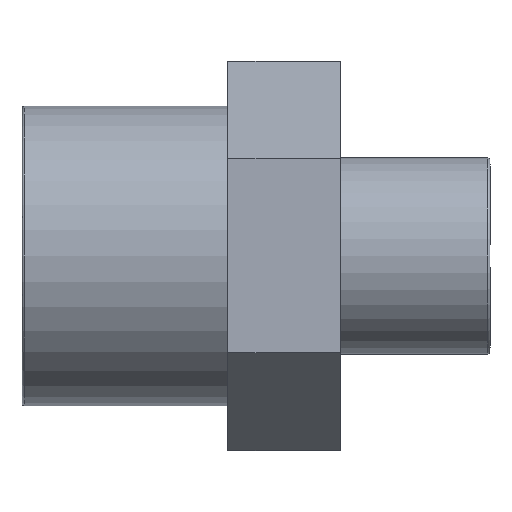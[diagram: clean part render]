
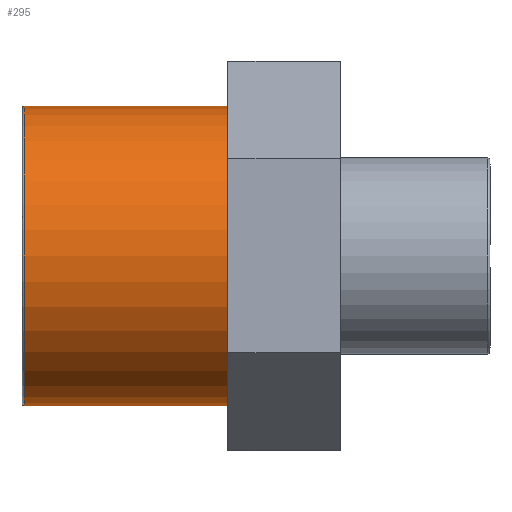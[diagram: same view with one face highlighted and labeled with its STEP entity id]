
A CAD part, front view. The second image highlights one B-rep face of the part: STEP entity #295.
In plain terms, the highlighted cylindrical face has radius 16 mm (diameter 32 mm), a full revolution.
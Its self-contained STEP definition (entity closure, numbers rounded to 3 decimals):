
#18=CYLINDRICAL_SURFACE('',#329,16.);
#29=FACE_BOUND('',#99,.T.);
#45=CIRCLE('',#328,16.);
#46=CIRCLE('',#330,16.);
#68=FACE_OUTER_BOUND('',#98,.T.);
#98=EDGE_LOOP('',(#246));
#99=EDGE_LOOP('',(#247));
#168=VERTEX_POINT('',#494);
#169=VERTEX_POINT('',#497);
#200=EDGE_CURVE('',#168,#168,#45,.T.);
#201=EDGE_CURVE('',#169,#169,#46,.T.);
#246=ORIENTED_EDGE('',*,*,#201,.T.);
#247=ORIENTED_EDGE('',*,*,#200,.F.);
#295=ADVANCED_FACE('',(#68,#29),#18,.T.);
#328=AXIS2_PLACEMENT_3D('',#495,#408,#409);
#329=AXIS2_PLACEMENT_3D('',#496,#410,#411);
#330=AXIS2_PLACEMENT_3D('',#498,#412,#413);
#408=DIRECTION('center_axis',(-1.,0.,0.));
#409=DIRECTION('ref_axis',(0.,1.,0.));
#410=DIRECTION('center_axis',(-1.,0.,0.));
#411=DIRECTION('ref_axis',(0.,-1.,0.));
#412=DIRECTION('center_axis',(-1.,0.,0.));
#413=DIRECTION('ref_axis',(0.,0.,1.));
#494=CARTESIAN_POINT('',(-24.75,-16.,0.));
#495=CARTESIAN_POINT('Origin',(-24.75,0.,0.));
#496=CARTESIAN_POINT('Origin',(-14.,0.,0.));
#497=CARTESIAN_POINT('',(-3.,-16.,0.));
#498=CARTESIAN_POINT('Origin',(-3.,0.,0.));
